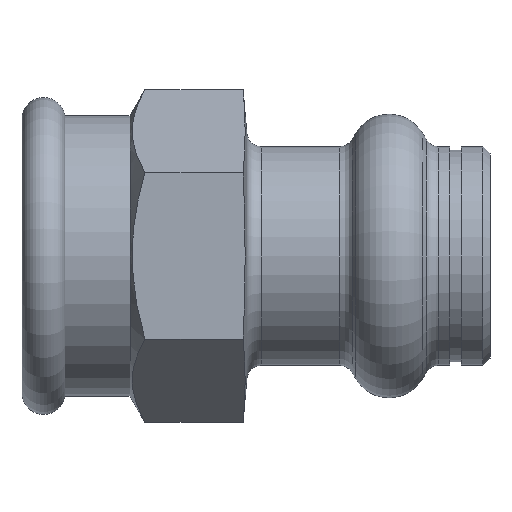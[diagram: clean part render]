
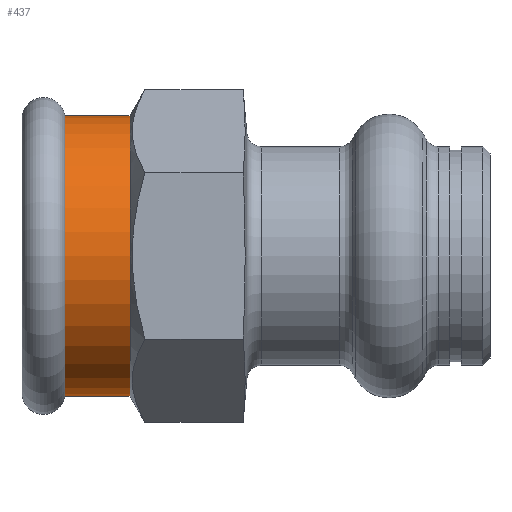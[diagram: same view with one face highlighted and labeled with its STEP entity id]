
A CAD part, left-side view. The second image highlights one B-rep face of the part: STEP entity #437.
In plain terms, the highlighted cylindrical face has radius 9.75 mm (diameter 19.5 mm), a partial arc.
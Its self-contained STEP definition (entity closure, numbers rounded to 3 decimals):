
#86 = VERTEX_POINT ( 'NONE', #953 ) ;
#105 = AXIS2_PLACEMENT_3D ( 'NONE', #1623, #1639, #1578 ) ;
#139 = DIRECTION ( 'NONE',  ( 0., -1., 0. ) ) ;
#163 = AXIS2_PLACEMENT_3D ( 'NONE', #1513, #1529, #1543 ) ;
#224 = DIRECTION ( 'NONE',  ( 0., -1., 0. ) ) ;
#382 = EDGE_CURVE ( 'NONE', #799, #754, #764, .T. ) ;
#409 = LINE ( 'NONE', #687, #1070 ) ;
#437 = ADVANCED_FACE ( 'NONE', ( #1697 ), #758, .T. ) ;
#491 = CARTESIAN_POINT ( 'NONE',  ( 0., -17.811, -9.75 ) ) ;
#536 = EDGE_CURVE ( 'NONE', #1443, #754, #1223, .T. ) ;
#564 = DIRECTION ( 'NONE',  ( 0., -1., 0. ) ) ;
#604 = EDGE_CURVE ( 'NONE', #86, #799, #409, .T. ) ;
#687 = CARTESIAN_POINT ( 'NONE',  ( 0., -17.811, 9.75 ) ) ;
#754 = VERTEX_POINT ( 'NONE', #1306 ) ;
#758 = CYLINDRICAL_SURFACE ( 'NONE', #1609, 9.75 ) ;
#764 = CIRCLE ( 'NONE', #105, 9.75 ) ;
#799 = VERTEX_POINT ( 'NONE', #1109 ) ;
#888 = EDGE_LOOP ( 'NONE', ( #1571, #987, #1354, #1538 ) ) ;
#953 = CARTESIAN_POINT ( 'NONE',  ( 0., 29.521, 9.75 ) ) ;
#987 = ORIENTED_EDGE ( 'NONE', *, *, #1475, .T. ) ;
#1070 = VECTOR ( 'NONE', #224, 1000. ) ;
#1109 = CARTESIAN_POINT ( 'NONE',  ( 0., 25., 9.75 ) ) ;
#1223 = LINE ( 'NONE', #491, #1454 ) ;
#1306 = CARTESIAN_POINT ( 'NONE',  ( 0., 25., -9.75 ) ) ;
#1354 = ORIENTED_EDGE ( 'NONE', *, *, #536, .T. ) ;
#1377 = CIRCLE ( 'NONE', #163, 9.75 ) ;
#1443 = VERTEX_POINT ( 'NONE', #1705 ) ;
#1454 = VECTOR ( 'NONE', #564, 1000. ) ;
#1475 = EDGE_CURVE ( 'NONE', #86, #1443, #1377, .T. ) ;
#1513 = CARTESIAN_POINT ( 'NONE',  ( 0., 29.521, 0. ) ) ;
#1529 = DIRECTION ( 'NONE',  ( 0., -1., 0. ) ) ;
#1538 = ORIENTED_EDGE ( 'NONE', *, *, #382, .F. ) ;
#1543 = DIRECTION ( 'NONE',  ( 0., 0., -1. ) ) ;
#1555 = CARTESIAN_POINT ( 'NONE',  ( 0., -17.811, 0. ) ) ;
#1571 = ORIENTED_EDGE ( 'NONE', *, *, #604, .F. ) ;
#1578 = DIRECTION ( 'NONE',  ( 0., 0., -1. ) ) ;
#1609 = AXIS2_PLACEMENT_3D ( 'NONE', #1555, #139, #1629 ) ;
#1623 = CARTESIAN_POINT ( 'NONE',  ( 0., 25., 0. ) ) ;
#1629 = DIRECTION ( 'NONE',  ( 0., 0., -1. ) ) ;
#1639 = DIRECTION ( 'NONE',  ( 0., -1., 0. ) ) ;
#1697 = FACE_OUTER_BOUND ( 'NONE', #888, .T. ) ;
#1705 = CARTESIAN_POINT ( 'NONE',  ( 0., 29.521, -9.75 ) ) ;
